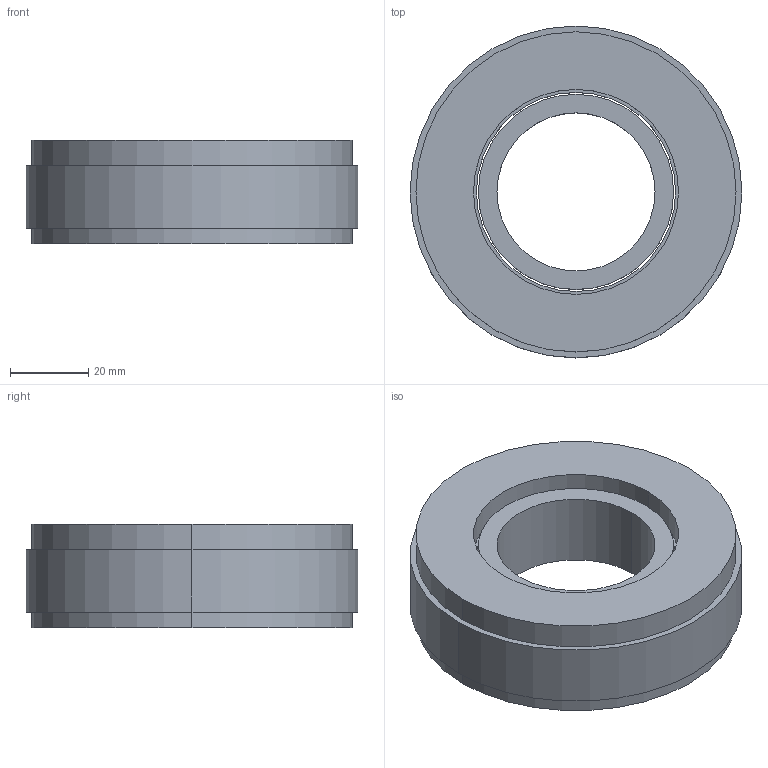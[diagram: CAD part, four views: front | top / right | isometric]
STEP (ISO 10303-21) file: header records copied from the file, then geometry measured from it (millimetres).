
FILE_DESCRIPTION (( 'STEP AP203' ), '1' );
FILE_NAME ('RI80.STEP', '2025-02-17T02:01:14', ( '' ), ( '' ), 'SwSTEP 2.0', 'SolidWorks 2020', '' );
FILE_SCHEMA (( 'CONFIG_CONTROL_DESIGN' ));
Length unit declared in the file: millimetre
Products named in the file (3): Ri80隅赽; Ri80蛌赽; RI80
Assembly tree (2 placements, depth 2):
  RI80
    Ri80隅赽
    Ri80蛌赽
Bounding box: 85 x 85 x 26.5 mm (x, y, z)
Volume: 103657.3 mm3; surface area: 25288.6 mm2
Topology: 2 solids, 2 shells, 24 faces, 48 edges, 32 vertices
Faces by surface type: cylinder 16, plane 8
Entity records: 957 total; most frequent: DIRECTION 138, CARTESIAN_POINT 109, ORIENTED_EDGE 96, AXIS2_PLACEMENT_3D 61, EDGE_CURVE 48, CIRCLE 32, EDGE_LOOP 32, VERTEX_POINT 32
